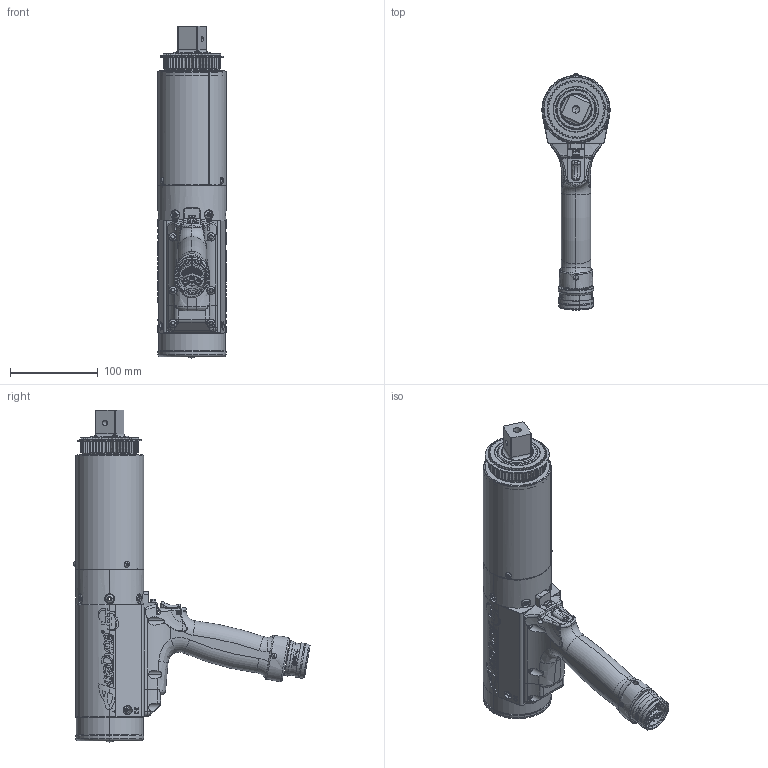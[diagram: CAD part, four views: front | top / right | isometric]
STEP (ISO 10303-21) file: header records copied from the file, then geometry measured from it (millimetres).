
FILE_DESCRIPTION (( 'STEP AP214' ), '1' );
FILE_NAME ('AEP4B773000B.STEP', '2016-04-05T20:48:34', ( 'AIMCO' ), ( '' ), 'SwSTEP 2.0', 'SolidWorks 2016', '' );
FILE_SCHEMA (( 'AUTOMOTIVE_DESIGN' ));
Length unit declared in the file: inch
Products named in the file (1): AEP4B773000B
Bounding box: 77.47 x 268.69 x 377.84 mm (x, y, z)
Surface area: 201493.8 mm2 (no closed solid volume)
Topology: 0 solids, 77 shells, 1377 faces, 5433 edges, 3925 vertices
Faces by surface type: cylinder 463, plane 361, bspline 259, torus 160, cone 121, sphere 13
Entity records: 140790 total; most frequent: CARTESIAN_POINT 82479, ORIENTED_EDGE 8311, DIRECTION 7274, EDGE_CURVE 5421, VERTEX_POINT 3923, AXIS2_PLACEMENT_3D 2724, VECTOR 1826, LINE 1826
